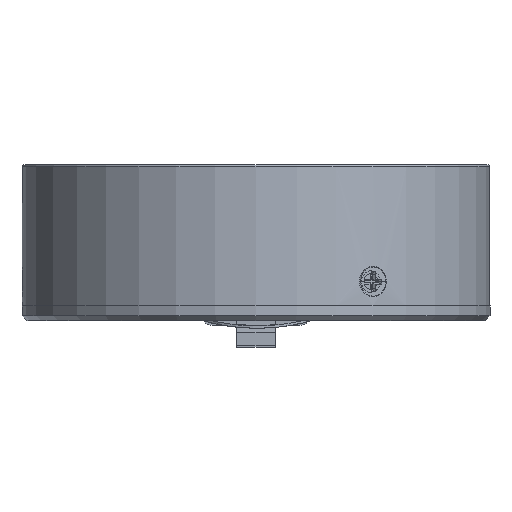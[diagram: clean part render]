
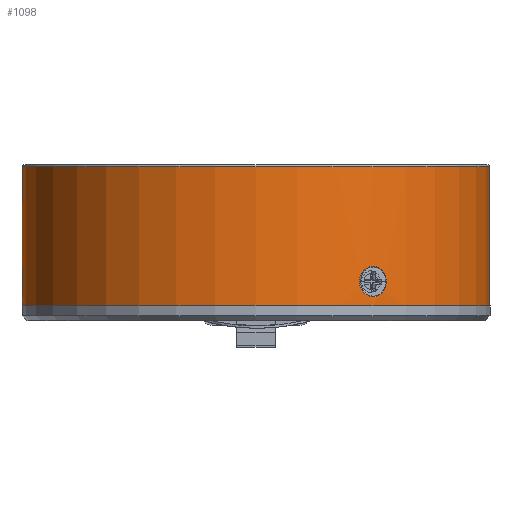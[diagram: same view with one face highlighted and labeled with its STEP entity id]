
A CAD part, left-side view. The second image highlights one B-rep face of the part: STEP entity #1098.
In plain terms, the highlighted cylindrical face has radius 24 mm (diameter 48 mm), a partial arc.
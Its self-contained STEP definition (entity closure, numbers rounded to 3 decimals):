
#1098=ADVANCED_FACE('NONE',(#2881,#2882),#2883,.T.);
#2881=FACE_OUTER_BOUND('',#6430,.T.);
#2882=FACE_BOUND('',#6431,.T.);
#2883=CYLINDRICAL_SURFACE('',#6432,24.0);
#6430=EDGE_LOOP('',(#10274,#10275,#10276,#10277,#10278,#10279,#10280));
#6431=EDGE_LOOP('',(#10281,#10282));
#6432=AXIS2_PLACEMENT_3D('',#10283,#10284,#10285);
#10274=ORIENTED_EDGE('',*,*,#18005,.F.);
#10275=ORIENTED_EDGE('',*,*,#18032,.T.);
#10276=ORIENTED_EDGE('',*,*,#18008,.T.);
#10277=ORIENTED_EDGE('',*,*,#18050,.T.);
#10278=ORIENTED_EDGE('',*,*,#18007,.F.);
#10279=ORIENTED_EDGE('',*,*,#17946,.T.);
#10280=ORIENTED_EDGE('',*,*,#18051,.T.);
#10281=ORIENTED_EDGE('',*,*,#17936,.T.);
#10282=ORIENTED_EDGE('',*,*,#18052,.T.);
#10283=CARTESIAN_POINT('',(0.0,0.0,0.0));
#10284=DIRECTION('',(0.0,1.0,0.0));
#10285=DIRECTION('',(0.0,0.0,-1.0));
#17936=EDGE_CURVE('NONE',#21064,#21062,#21065,.T.);
#17946=EDGE_CURVE('NONE',#21082,#21080,#21083,.T.);
#18005=EDGE_CURVE('NONE',#21175,#21177,#21178,.T.);
#18007=EDGE_CURVE('NONE',#21082,#21165,#21180,.T.);
#18008=EDGE_CURVE('NONE',#21181,#21166,#21182,.T.);
#18032=EDGE_CURVE('NONE',#21175,#21181,#21220,.T.);
#18050=EDGE_CURVE('NONE',#21166,#21165,#21240,.T.);
#18051=EDGE_CURVE('NONE',#21080,#21177,#21241,.T.);
#18052=EDGE_CURVE('NONE',#21062,#21064,#21242,.T.);
#21062=VERTEX_POINT('NONE',#25913);
#21064=VERTEX_POINT('NONE',#25916);
#21065=B_SPLINE_CURVE_WITH_KNOTS('',3,(#25917,#25918,#25919,#25920,#25921,#25922,#25923,#25924,#25925,#25926,#25927,#25928,#25929,#25930,#25931,#25932,#25933,#25934,#25935,#25936,#25937,#25938),.UNSPECIFIED.,.F.,.F.,(4,2,2,2,2,2,2,2,2,2,4),(0.0,0.063,0.125,0.188,0.25,0.281,0.313,0.375,0.438,0.469,0.5),.UNSPECIFIED.);
#21080=VERTEX_POINT('NONE',#26163);
#21082=VERTEX_POINT('NONE',#26166);
#21083=B_SPLINE_CURVE_WITH_KNOTS('',3,(#26167,#26168,#26169,#26170,#26171,#26172,#26173,#26174,#26175,#26176,#26177,#26178),.UNSPECIFIED.,.F.,.F.,(4,2,2,2,2,4),(0.248,0.311,0.374,0.437,0.468,0.5),.UNSPECIFIED.);
#21165=VERTEX_POINT('NONE',#26348);
#21166=VERTEX_POINT('NONE',#26349);
#21175=VERTEX_POINT('NONE',#26358);
#21177=VERTEX_POINT('NONE',#26360);
#21178=LINE('',#26361,#26362);
#21180=LINE('',#26375,#26376);
#21181=VERTEX_POINT('NONE',#26377);
#21182=LINE('',#26378,#26379);
#21220=CIRCLE('',#26498,24.0);
#21240=CIRCLE('',#26571,24.0);
#21241=B_SPLINE_CURVE_WITH_KNOTS('',3,(#26572,#26573,#26574,#26575,#26576,#26577,#26578,#26579,#26580,#26581,#26582,#26583),.UNSPECIFIED.,.F.,.F.,(4,2,2,2,2,4),(0.5,0.532,0.563,0.626,0.689,0.752),.UNSPECIFIED.);
#21242=B_SPLINE_CURVE_WITH_KNOTS('',3,(#26584,#26585,#26586,#26587,#26588,#26589,#26590,#26591,#26592,#26593,#26594,#26595,#26596,#26597,#26598,#26599,#26600,#26601,#26602,#26603,#26604,#26605),.UNSPECIFIED.,.F.,.F.,(4,2,2,2,2,2,2,2,2,2,4),(0.5,0.531,0.563,0.625,0.688,0.75,0.813,0.875,0.906,0.938,1.0),.UNSPECIFIED.);
#25913=CARTESIAN_POINT('',(-19.928,12.,-13.375));
#25916=CARTESIAN_POINT('',(-21.524,12.0,-10.616));
#25917=CARTESIAN_POINT('',(-21.524,12.0,-10.616));
#25918=CARTESIAN_POINT('',(-21.524,11.794,-10.616));
#25919=CARTESIAN_POINT('',(-21.506,11.59,-10.654));
#25920=CARTESIAN_POINT('',(-21.434,11.212,-10.797));
#25921=CARTESIAN_POINT('',(-21.381,11.039,-10.903));
#25922=CARTESIAN_POINT('',(-21.245,10.749,-11.165));
#25923=CARTESIAN_POINT('',(-21.163,10.634,-11.321));
#25924=CARTESIAN_POINT('',(-20.979,10.477,-11.659));
#25925=CARTESIAN_POINT('',(-20.877,10.436,-11.841));
#25926=CARTESIAN_POINT('',(-20.72,10.436,-12.112));
#25927=CARTESIAN_POINT('',(-20.667,10.446,-12.202));
#25928=CARTESIAN_POINT('',(-20.562,10.486,-12.378));
#25929=CARTESIAN_POINT('',(-20.511,10.516,-12.463));
#25930=CARTESIAN_POINT('',(-20.359,10.634,-12.711));
#25931=CARTESIAN_POINT('',(-20.265,10.749,-12.859));
#25932=CARTESIAN_POINT('',(-20.105,11.039,-13.108));
#25933=CARTESIAN_POINT('',(-20.04,11.212,-13.207));
#25934=CARTESIAN_POINT('',(-19.973,11.496,-13.307));
#25935=CARTESIAN_POINT('',(-19.956,11.593,-13.332));
#25936=CARTESIAN_POINT('',(-19.933,11.795,-13.366));
#25937=CARTESIAN_POINT('',(-19.928,11.897,-13.375));
#25938=CARTESIAN_POINT('',(-19.928,12.,-13.375));
#26163=CARTESIAN_POINT('',(-1.619,12.,23.945));
#26166=CARTESIAN_POINT('',(0.,10.437,24.));
#26167=CARTESIAN_POINT('',(0.,10.437,24.));
#26168=CARTESIAN_POINT('',(-0.211,10.433,24.));
#26169=CARTESIAN_POINT('',(-0.422,10.471,23.997));
#26170=CARTESIAN_POINT('',(-0.813,10.625,23.987));
#26171=CARTESIAN_POINT('',(-0.992,10.74,23.98));
#26172=CARTESIAN_POINT('',(-1.294,11.031,23.966));
#26173=CARTESIAN_POINT('',(-1.413,11.204,23.958));
#26174=CARTESIAN_POINT('',(-1.536,11.492,23.951));
#26175=CARTESIAN_POINT('',(-1.567,11.589,23.949));
#26176=CARTESIAN_POINT('',(-1.608,11.792,23.946));
#26177=CARTESIAN_POINT('',(-1.619,11.896,23.945));
#26178=CARTESIAN_POINT('',(-1.619,12.,23.945));
#26348=CARTESIAN_POINT('',(0.,0.2,24.0));
#26349=CARTESIAN_POINT('',(0.0,0.2,-24.0));
#26358=CARTESIAN_POINT('',(0.,14.5,24.0));
#26360=CARTESIAN_POINT('',(0.,13.563,24.));
#26361=CARTESIAN_POINT('',(0.,0.0,24.0));
#26362=VECTOR('',#39746,1000.0);
#26375=CARTESIAN_POINT('',(0.,0.0,24.0));
#26376=VECTOR('',#39747,1000.0);
#26377=CARTESIAN_POINT('',(0.0,14.5,-24.0));
#26378=CARTESIAN_POINT('',(0.0,0.0,-24.0));
#26379=VECTOR('',#39748,1000.0);
#26498=AXIS2_PLACEMENT_3D('',#39779,#39780,#39781);
#26571=AXIS2_PLACEMENT_3D('',#39805,#39806,#39807);
#26572=CARTESIAN_POINT('',(-1.619,12.,23.945));
#26573=CARTESIAN_POINT('',(-1.619,12.104,23.945));
#26574=CARTESIAN_POINT('',(-1.608,12.208,23.946));
#26575=CARTESIAN_POINT('',(-1.567,12.411,23.949));
#26576=CARTESIAN_POINT('',(-1.536,12.509,23.951));
#26577=CARTESIAN_POINT('',(-1.413,12.796,23.958));
#26578=CARTESIAN_POINT('',(-1.293,12.97,23.966));
#26579=CARTESIAN_POINT('',(-0.993,13.26,23.98));
#26580=CARTESIAN_POINT('',(-0.813,13.375,23.987));
#26581=CARTESIAN_POINT('',(-0.422,13.529,23.997));
#26582=CARTESIAN_POINT('',(-0.21,13.567,24.));
#26583=CARTESIAN_POINT('',(0.,13.563,24.));
#26584=CARTESIAN_POINT('',(-19.928,12.,-13.375));
#26585=CARTESIAN_POINT('',(-19.928,12.103,-13.375));
#26586=CARTESIAN_POINT('',(-19.934,12.206,-13.366));
#26587=CARTESIAN_POINT('',(-19.956,12.407,-13.332));
#26588=CARTESIAN_POINT('',(-19.973,12.504,-13.307));
#26589=CARTESIAN_POINT('',(-20.04,12.789,-13.207));
#26590=CARTESIAN_POINT('',(-20.105,12.961,-13.108));
#26591=CARTESIAN_POINT('',(-20.265,13.251,-12.859));
#26592=CARTESIAN_POINT('',(-20.359,13.367,-12.71));
#26593=CARTESIAN_POINT('',(-20.561,13.523,-12.381));
#26594=CARTESIAN_POINT('',(-20.668,13.564,-12.202));
#26595=CARTESIAN_POINT('',(-20.877,13.564,-11.841));
#26596=CARTESIAN_POINT('',(-20.979,13.523,-11.659));
#26597=CARTESIAN_POINT('',(-21.163,13.366,-11.321));
#26598=CARTESIAN_POINT('',(-21.245,13.251,-11.165));
#26599=CARTESIAN_POINT('',(-21.347,13.033,-10.968));
#26600=CARTESIAN_POINT('',(-21.378,12.953,-10.908));
#26601=CARTESIAN_POINT('',(-21.43,12.783,-10.805));
#26602=CARTESIAN_POINT('',(-21.452,12.694,-10.761));
#26603=CARTESIAN_POINT('',(-21.506,12.409,-10.653));
#26604=CARTESIAN_POINT('',(-21.524,12.205,-10.616));
#26605=CARTESIAN_POINT('',(-21.524,12.0,-10.616));
#39746=DIRECTION('',(0.0,-1.0,0.0));
#39747=DIRECTION('',(0.0,-1.0,0.0));
#39748=DIRECTION('',(0.0,-1.0,0.0));
#39779=CARTESIAN_POINT('',(0.0,14.5,0.0));
#39780=DIRECTION('',(0.0,-1.0,0.0));
#39781=DIRECTION('',(0.0,0.0,-1.0));
#39805=CARTESIAN_POINT('',(0.0,0.2,0.0));
#39806=DIRECTION('',(0.0,1.0,0.0));
#39807=DIRECTION('',(0.0,0.0,-1.0));
